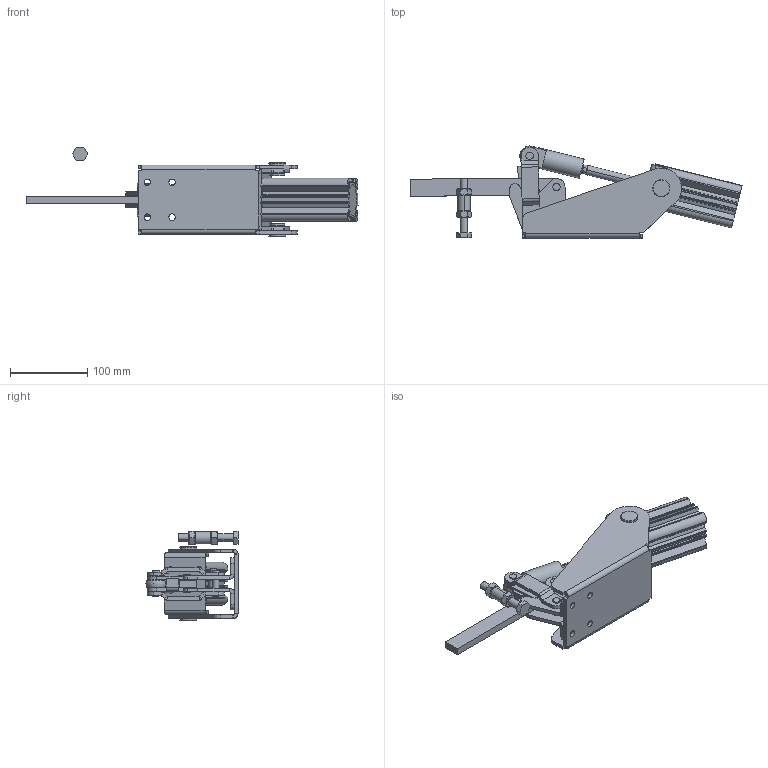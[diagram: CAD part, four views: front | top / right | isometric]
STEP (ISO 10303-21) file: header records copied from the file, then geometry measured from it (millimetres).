
FILE_DESCRIPTION (( 'STEP AP203' ), '1' );
FILE_NAME ('KF-111 DS P.STEP', '2016-12-15T11:45:20', ( 'Ricardo' ), ( '' ), 'SwSTEP 2.0', 'SolidWorks 2015', '' );
FILE_SCHEMA (( 'CONFIG_CONTROL_DESIGN' ));
Length unit declared in the file: millimetre
Products named in the file (22): 02.12010_Direita; 1 PC 21287; 15.20029; 02.12010_Esquerda; 2 PC 21287; 15.10101; 01.10168; 3 PC 21287; 15.10062; 04.10003A_Direita; 2800400700CP_avan㌢do; 20.20005; 04.10003B_Direita; KF-111 DS P; 11.50003; 04.20003; 12.50004; 06.50009; PSB-M10; 06.50010; 16.20071; 03.15005
Assembly tree (26 placements, depth 3):
  KF-111 DS P
    02.12010_Direita
    02.12010_Esquerda
    01.10168  x2
    04.10003A_Direita
    04.10003B_Direita
    04.20003
    06.50009  x2
    06.50010  x2
    03.15005
    15.20029
    15.10101
    15.10062
    PSB-M10
      20.20005
      11.50003  x2
      12.50004
    16.20071  x2
    2800400700CP_avan㌢do
      1 PC 21287
      2 PC 21287
      3 PC 21287
Bounding box: 428.45 x 118.74 x 115.53 mm (x, y, z)
Volume: 540391 mm3; surface area: 239207.9 mm2
Topology: 24 solids, 24 shells, 684 faces, 1632 edges, 1021 vertices
Faces by surface type: plane 305, cylinder 294, cone 82, bspline 2, sphere 1
Entity records: 19951 total; most frequent: DIRECTION 3197, CARTESIAN_POINT 3158, ORIENTED_EDGE 2830, EDGE_CURVE 1415, AXIS2_PLACEMENT_3D 1212, VERTEX_POINT 897, LINE 773, VECTOR 773
